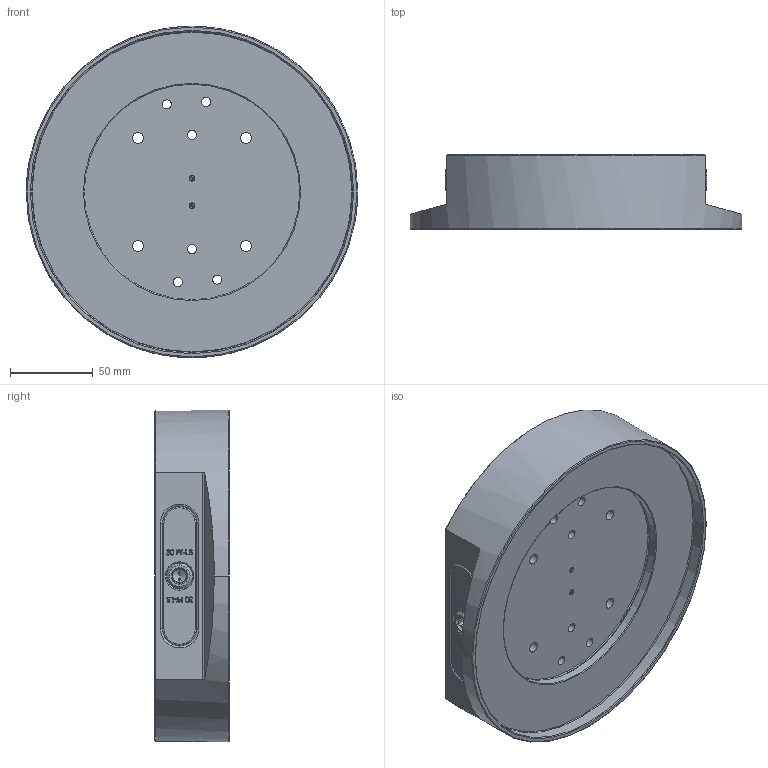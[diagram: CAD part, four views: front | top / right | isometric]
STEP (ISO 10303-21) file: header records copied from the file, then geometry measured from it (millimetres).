
FILE_DESCRIPTION (( 'STEP AP214' ), '1' );
FILE_NAME ('RL96S-NCT200.STEP', '2019-07-29T20:03:16', ( '' ), ( '' ), 'SwSTEP 2.0', 'SolidWorks 2018', '' );
FILE_SCHEMA (( 'AUTOMOTIVE_DESIGN' ));
Length unit declared in the file: millimetre
Products named in the file (9): RL96-ASSY; SB54_FINISHED PART; 27X20.DB; RL96-3; 033.OR in Shape of Truck; RL96-2R; RL96-2L; RL96-1NCT200S; RL96S-NCT200
Assembly tree (13 placements, depth 3):
  RL96S-NCT200
    RL96-1NCT200S
    RL96-ASSY
      RL96-2L
      RL96-2R
      033.OR in Shape of Truck  x2
      RL96-3
      27X20.DB  x4
      SB54_FINISHED PART  x2
Bounding box: 200 x 45 x 200 mm (x, y, z)
Volume: 877456 mm3; surface area: 161363.5 mm2
Topology: 12 solids, 12 shells, 889 faces, 2180 edges, 1376 vertices
Faces by surface type: plane 410, cylinder 232, bspline 97, cone 92, torus 58
Entity records: 33114 total; most frequent: CARTESIAN_POINT 11890, ORIENTED_EDGE 4012, DIRECTION 3698, EDGE_CURVE 2006, AXIS2_PLACEMENT_3D 1282, VERTEX_POINT 1278, VECTOR 1134, LINE 1134
